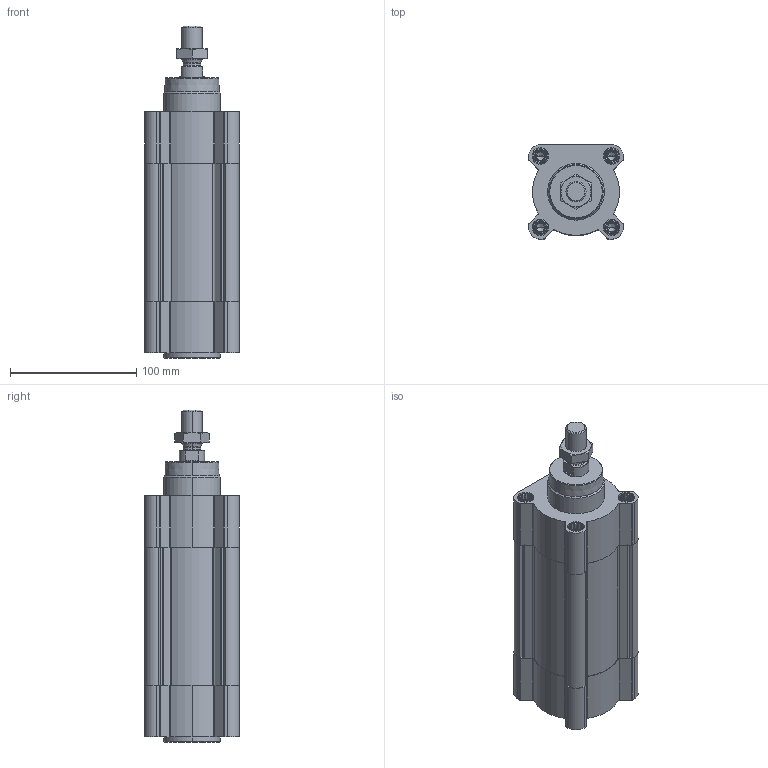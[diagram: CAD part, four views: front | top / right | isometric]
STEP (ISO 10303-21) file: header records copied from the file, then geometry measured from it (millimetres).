
FILE_DESCRIPTION (( 'STEP AP203' ), '1' );
FILE_NAME ('CPME63-70.STEP', '2023-05-25T13:49:54', ( '' ), ( '' ), 'SwSTEP 2.0', 'SolidWorks 2019', '' );
FILE_SCHEMA (( 'CONFIG_CONTROL_DESIGN' ));
Length unit declared in the file: millimetre
Products named in the file (1): CPME63-70
Bounding box: 75 x 75 x 263.1 mm (x, y, z)
Volume: 749805.6 mm3; surface area: 151262.6 mm2
Topology: 3 solids, 3 shells, 639 faces, 1655 edges, 1050 vertices
Faces by surface type: plane 325, cylinder 200, cone 106, torus 8
Entity records: 19989 total; most frequent: CARTESIAN_POINT 4403, ORIENTED_EDGE 3278, DIRECTION 3187, EDGE_CURVE 1639, AXIS2_PLACEMENT_3D 1131, VERTEX_POINT 1050, VECTOR 925, LINE 925
